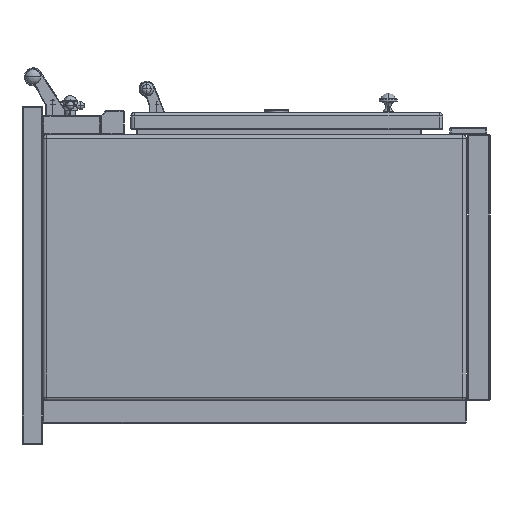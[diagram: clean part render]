
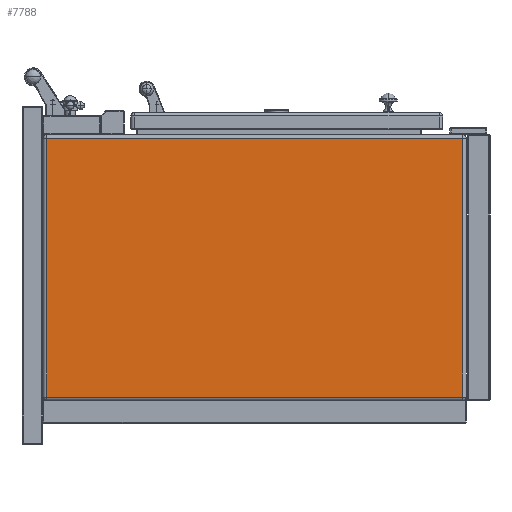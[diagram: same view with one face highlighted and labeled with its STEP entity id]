
A CAD part, left-side view. The second image highlights one B-rep face of the part: STEP entity #7788.
In plain terms, the highlighted planar face has unit normal (-1, 0, 0).
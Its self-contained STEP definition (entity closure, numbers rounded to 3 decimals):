
#2554=DIRECTION('',(0.,1.,0.));
#2555=VECTOR('',#2554,801.);
#2556=CARTESIAN_POINT('',(-1100.,52.5,249.));
#2557=LINE('',#2556,#2555);
#2558=DIRECTION('',(0.,0.,1.));
#2559=VECTOR('',#2558,498.);
#2560=CARTESIAN_POINT('',(-1100.,52.5,-249.));
#2561=LINE('',#2560,#2559);
#2562=DIRECTION('',(0.,-1.,0.));
#2563=VECTOR('',#2562,801.);
#2564=CARTESIAN_POINT('',(-1100.,853.5,-249.));
#2565=LINE('',#2564,#2563);
#2566=DIRECTION('',(0.,0.,-1.));
#2567=VECTOR('',#2566,498.);
#2568=CARTESIAN_POINT('',(-1100.,853.5,249.));
#2569=LINE('',#2568,#2567);
#3278=CARTESIAN_POINT('',(-1100.,52.5,249.));
#3279=CARTESIAN_POINT('',(-1100.,853.5,249.));
#3280=VERTEX_POINT('',#3278);
#3281=VERTEX_POINT('',#3279);
#3282=CARTESIAN_POINT('',(-1100.,52.5,-249.));
#3283=VERTEX_POINT('',#3282);
#3306=CARTESIAN_POINT('',(-1100.,853.5,-249.));
#3307=VERTEX_POINT('',#3306);
#7774=CARTESIAN_POINT('',(-1100.,0.,0.));
#7775=DIRECTION('',(1.,0.,0.));
#7776=DIRECTION('',(0.,0.,-1.));
#7777=AXIS2_PLACEMENT_3D('',#7774,#7775,#7776);
#7778=PLANE('',#7777);
#7780=ORIENTED_EDGE('',*,*,#7779,.F.);
#7782=ORIENTED_EDGE('',*,*,#7781,.F.);
#7783=ORIENTED_EDGE('',*,*,#7765,.F.);
#7785=ORIENTED_EDGE('',*,*,#7784,.F.);
#7786=EDGE_LOOP('',(#7780,#7782,#7783,#7785));
#7787=FACE_OUTER_BOUND('',#7786,.F.);
#7765=EDGE_CURVE('',#3307,#3283,#2565,.T.);
#7779=EDGE_CURVE('',#3280,#3281,#2557,.T.);
#7781=EDGE_CURVE('',#3283,#3280,#2561,.T.);
#7784=EDGE_CURVE('',#3281,#3307,#2569,.T.);
#7788=ADVANCED_FACE('',(#7787),#7778,.F.);
